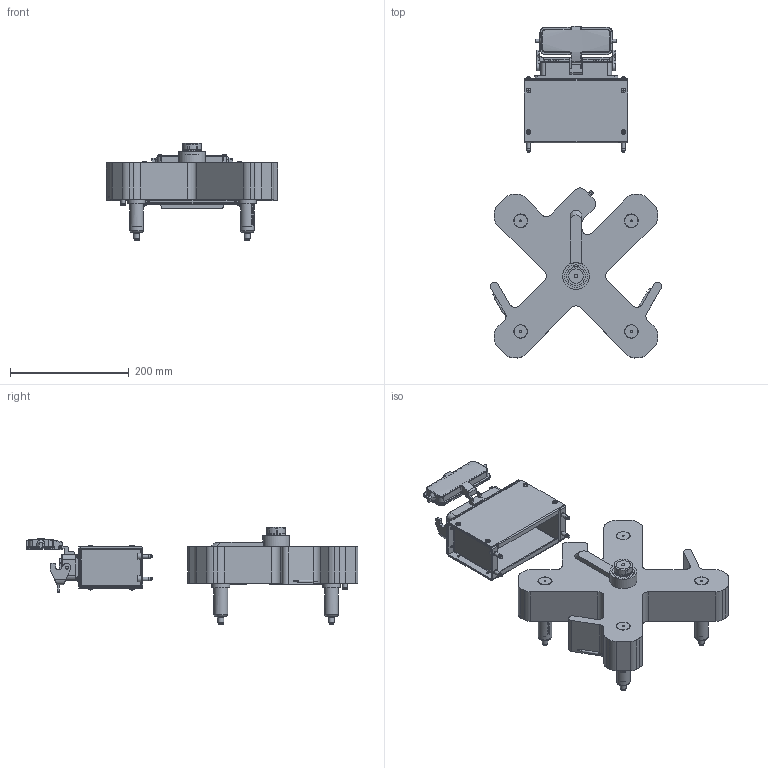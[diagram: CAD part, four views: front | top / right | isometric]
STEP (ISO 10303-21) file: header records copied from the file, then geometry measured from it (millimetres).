
FILE_DESCRIPTION(('STEP AP214'),'1');
FILE_NAME('E180-11340_QD_01.stp','2023-04-14T01:21:02',(' '),(' '),'Spatial InterOp 3D',' ',' ');
FILE_SCHEMA(('AUTOMOTIVE_DESIGN { 1 0 10303 214 1 1 1 1 }'));
Length unit declared in the file: millimetre
Products named in the file (66): 零件16; __11; 零件53; 6.6-46-A; 零件9; 零件45; 零件41; 零件65; 零件63; 零件61; 零件59; 零件55; 零件51; 零件50; NPX-05; 零件15; 零件1; 零件56; __10; R2; 螺钉 ： 圆柱头 - M6.0 x 12.0; __25; __42
Assembly tree (65 placements, depth 4):
  (unnamed)
    零件16
    __11
      零件53
      零件53
      零件53
      零件53
      6.6-46-A
        零件9
        零件9
        零件9
        零件9
        零件45
        零件41
        零件65
        零件63
        零件61
        零件59
        零件55
        零件51
        零件50
      NPX-05
      NPX-05
      NPX-05
      NPX-05
      零件15
      零件1
      零件1
      零件56
      零件1
      零件1
      零件1
      零件1
      零件1
      零件1
      零件1
    __25
      __10
        R2
        R2
        R2
        R2
        零件1
        零件1
        零件1
        零件1
        螺钉 ： 圆柱头 - M6.0 x 12.0
        螺钉 ： 圆柱头 - M6.0 x 12.0
        螺钉 ： 圆柱头 - M6.0 x 12.0
        螺钉 ： 圆柱头 - M6.0 x 12.0
        R2
        R2
        R2
        R2
        R2
        R2
        R2
        R2
        R2
        R2
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Bounding box: 288.5 x 559.4 x 164.2 mm (x, y, z)
Volume: 4568635.7 mm3; surface area: 650756.7 mm2
Topology: 60 solids, 60 shells, 4066 faces, 10601 edges, 6930 vertices
Faces by surface type: plane 2822, cylinder 719, cone 181, torus 134, bspline 88, extrusion 78, sphere 44
Full cylindrical faces by diameter (mm): 0.985 x1, 1.117 x1, 1.44 x4, 1.5 x2, 1.6 x4, 1.621 x4, 1.953 x4, 2 x8, 2.5 x24, 2.7 x1, 3 x27, 3.2 x24, 3.3 x4, 4 x32, 4.4 x4, 4.5 x12, 4.8 x1, 5 x8, 5.402 x1, 5.5 x9, 5.995 x4, 6 x11, 6.511 x1, 6.6 x4, 7 x9, 7.5 x4, 7.853 x12, 8 x6, 8.003 x4, 8.5 x5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
Entity records: 160919 total; most frequent: CARTESIAN_POINT 30533, ORIENTED_EDGE 19458, DIRECTION 19338, EDGE_CURVE 9729, VECTOR 7062, LINE 6984, VERTEX_POINT 6684, AXIS2_PLACEMENT_3D 6138
